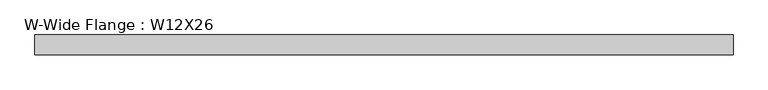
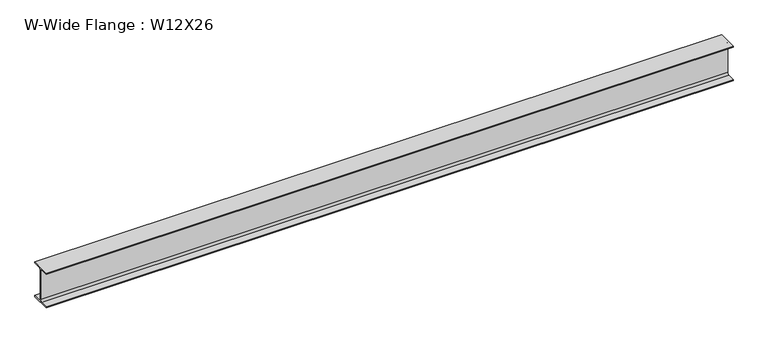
"""IFC4 building model written with IfcOpenShell, lengths in millimetres: beam geometry, W-Wide Flange : W12X26."""

from ifc_helpers import new_model, si_unit, point, frame, frame_2d, origin, place, context, project, spatial, polyline, circle_curve, trimmed, segment, composite_curve, outline, extrude, source, transform, mapped, element, save


def w_wide_flange_w12x26_ec7660bb(model_context):
    return source(origin(), model_context, "Body", "SweptSolid", [
        extrude(outline(composite_curve([segment(polyline([(82.4011719, -145.5539063), (82.4011719, -155.178125), (-82.4011719, -155.178125), (-82.4011719, -145.5539063), (-20.2902344, -145.5539063)]), True, "CONTINUOUS"), segment(trimmed(circle_curve(frame_2d((-20.2902344, -128.190625)), 17.3632812), [point((-20.2902344, -145.5539063))], [point((-2.9269531, -128.190625))], True, "CARTESIAN"), True, "CONTINUOUS"), segment(polyline([(-2.9269531, -128.190625), (-2.9269531, 128.190625)]), True, "CONTINUOUS"), segment(trimmed(circle_curve(frame_2d((-20.2902344, 128.190625)), 17.3632812), [point((-2.9269531, 128.190625))], [point((-20.2902344, 145.5539062))], True, "CARTESIAN"), True, "CONTINUOUS"), segment(polyline([(-20.2902344, 145.5539062), (-82.4011719, 145.5539062), (-82.4011719, 155.178125), (82.4011719, 155.178125), (82.4011719, 145.5539062), (20.2902344, 145.5539062)]), True, "CONTINUOUS"), segment(trimmed(circle_curve(frame_2d((20.2902344, 128.190625)), 17.3632812), [point((20.2902344, 145.5539062))], [point((2.9269531, 128.190625))], True, "CARTESIAN"), True, "CONTINUOUS"), segment(polyline([(2.9269531, 128.190625), (2.9269531, -128.190625)]), True, "CONTINUOUS"), segment(trimmed(circle_curve(frame_2d((20.2902344, -128.190625)), 17.3632812), [point((2.9269531, -128.190625))], [point((20.2902344, -145.5539063))], True, "CARTESIAN"), True, "CONTINUOUS"), segment(polyline([(20.2902344, -145.5539063), (82.4011719, -145.5539063)]), True, "CONTINUOUS")], self_intersect=False)), frame((-2849.9345703, 0.0, 0.0), z_axis=(1.0, 0.0, 0.0), x_axis=(0.0, 1.0, 0.0)), (0.0, 0.0, 1.0), 5823.4460931),
    ])


if __name__ == "__main__":
    model = new_model("IFC4")
    model_context = context("Model", 3, world=origin())
    ifc_project = project(units=[si_unit("LENGTHUNIT", "METRE", prefix="MILLI")], contexts=[model_context])
    site = spatial("IfcSite", under=ifc_project)
    building = spatial("IfcBuilding", under=site)
    placement = place(None, origin())
    w_wide_flange_w12x26_shape = w_wide_flange_w12x26_ec7660bb(model_context)
    element("IfcBeam", 1, ObjectType="W-Wide Flange : W12X26", at=placement, inside=building, context=model_context, shape_type="MappedRepresentation", body=[
        mapped(w_wide_flange_w12x26_shape, transform((0.0, 0.0, 0.0), x_axis=(1.0, 0.0, 0.0), y_axis=(0.0, 1.0, 0.0), z_axis=(0.0, 0.0, 1.0))),
    ])
    save(model, "model.ifc")
